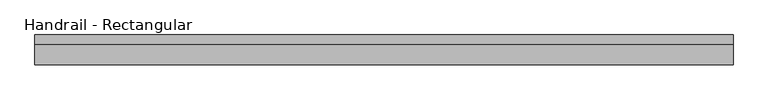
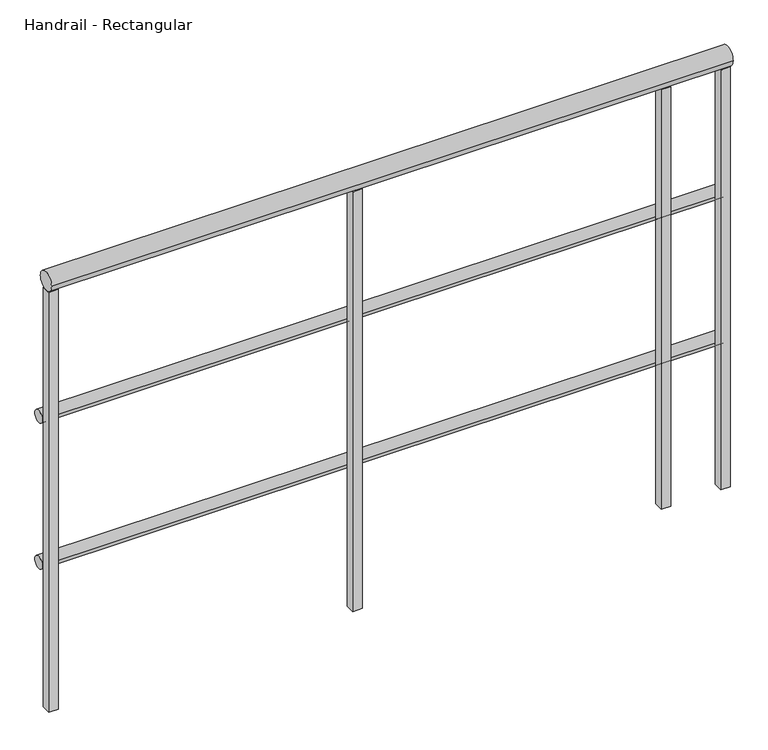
"""IFC4 building model written with IfcOpenShell, lengths in millimetres: railing geometry, Handrail - Rectangular."""

from ifc_helpers import new_model, si_unit, point, frame, frame_2d, origin, place, context, project, spatial, polyline, circle_curve, trimmed, segment, composite_curve, outline, extrude, source, transform, mapped, element, save


def handrail_rectangular_1381a444(model_context):
    return source(origin(), model_context, "Body", "SweptSolid", [
        extrude(outline(composite_curve([segment(trimmed(circle_curve(frame_2d((11970.2316867, 3644.9)), 12.7), [point((11982.9316867, 3644.9))], [point((11957.5316867, 3644.9))], False, "CARTESIAN"), True, "CONTINUOUS"), segment(trimmed(circle_curve(frame_2d((11970.2316867, 3644.9)), 12.7), [point((11957.5316867, 3644.9))], [point((11982.9316867, 3644.9))], False, "CARTESIAN"), True, "CONTINUOUS")], self_intersect=False)), frame((-5665.7589563, 0.0, 0.0), z_axis=(1.0, 0.0, 0.0), x_axis=(0.0, 1.0, 0.0)), (0.0, 0.0, 1.0), 1346.2),
        extrude(outline(composite_curve([segment(trimmed(circle_curve(frame_2d((11970.2316867, 3340.1)), 12.7), [point((11982.9316867, 3340.1))], [point((11957.5316867, 3340.1))], False, "CARTESIAN"), True, "CONTINUOUS"), segment(trimmed(circle_curve(frame_2d((11970.2316867, 3340.1)), 12.7), [point((11957.5316867, 3340.1))], [point((11982.9316867, 3340.1))], False, "CARTESIAN"), True, "CONTINUOUS")], self_intersect=False)), frame((-5665.7589563, 0.0, 0.0), z_axis=(1.0, 0.0, 0.0), x_axis=(0.0, 1.0, 0.0)), (0.0, 0.0, 1.0), 1346.2),
        extrude(outline(composite_curve([segment(trimmed(circle_curve(frame_2d((11944.8316867, 3943.35)), 19.05), [point((11963.8816867, 3943.35))], [point((11925.7816867, 3943.35))], False, "CARTESIAN"), True, "CONTINUOUS"), segment(trimmed(circle_curve(frame_2d((11944.8316867, 3943.35)), 19.05), [point((11925.7816867, 3943.35))], [point((11963.8816867, 3943.35))], False, "CARTESIAN"), True, "CONTINUOUS")], self_intersect=False)), frame((-5665.7589563, 0.0, 0.0), z_axis=(1.0, 0.0, 0.0), x_axis=(0.0, 1.0, 0.0)), (0.0, 0.0, 1.0), 1346.2),
        extrude(outline(polyline([(-4456.0839563, 11935.3066867), (-4456.0839563, 11954.3566867), (-4437.0339563, 11954.3566867), (-4437.0339563, 11935.3066867), (-4456.0839563, 11935.3066867)])), frame((0.0, 0.0, 3048.0), z_axis=(0.0, 0.0, 1.0), x_axis=(1.0, 0.0, 0.0)), (0.0, 0.0, 1.0), 876.3),
        extrude(outline(polyline([(-5065.6839563, 11935.3066867), (-5065.6839563, 11954.3566867), (-5046.6339563, 11954.3566867), (-5046.6339563, 11935.3066867), (-5065.6839563, 11935.3066867)])), frame((0.0, 0.0, 3048.0), z_axis=(0.0, 0.0, 1.0), x_axis=(1.0, 0.0, 0.0)), (0.0, 0.0, 1.0), 876.3),
        extrude(outline(polyline([(-4338.6089563, 11935.3066867), (-4338.6089563, 11954.3566867), (-4319.5589563, 11954.3566867), (-4319.5589563, 11935.3066867), (-4338.6089563, 11935.3066867)])), frame((0.0, 0.0, 3048.0), z_axis=(0.0, 0.0, 1.0), x_axis=(1.0, 0.0, 0.0)), (0.0, 0.0, 1.0), 876.3),
        extrude(outline(polyline([(-5665.7589563, 11935.3066867), (-5665.7589563, 11954.3566867), (-5646.7089563, 11954.3566867), (-5646.7089563, 11935.3066867), (-5665.7589563, 11935.3066867)])), frame((0.0, 0.0, 3048.0), z_axis=(0.0, 0.0, 1.0), x_axis=(1.0, 0.0, 0.0)), (0.0, 0.0, 1.0), 876.3),
    ])


if __name__ == "__main__":
    model = new_model("IFC4")
    model_context = context("Model", 3, world=origin())
    ifc_project = project(units=[si_unit("LENGTHUNIT", "METRE", prefix="MILLI")], contexts=[model_context])
    site = spatial("IfcSite", under=ifc_project)
    building = spatial("IfcBuilding", under=site)
    placement = place(None, origin())
    handrail_rectangular_shape = handrail_rectangular_1381a444(model_context)
    element("IfcRailing", 1, ObjectType="Handrail - Rectangular", at=placement, inside=building, context=model_context, shape_type="MappedRepresentation", body=[
        mapped(handrail_rectangular_shape, transform((0.0, 0.0, 0.0), x_axis=(1.0, 0.0, 0.0), y_axis=(0.0, 1.0, 0.0), z_axis=(0.0, 0.0, 1.0))),
    ])
    save(model, "model.ifc")
